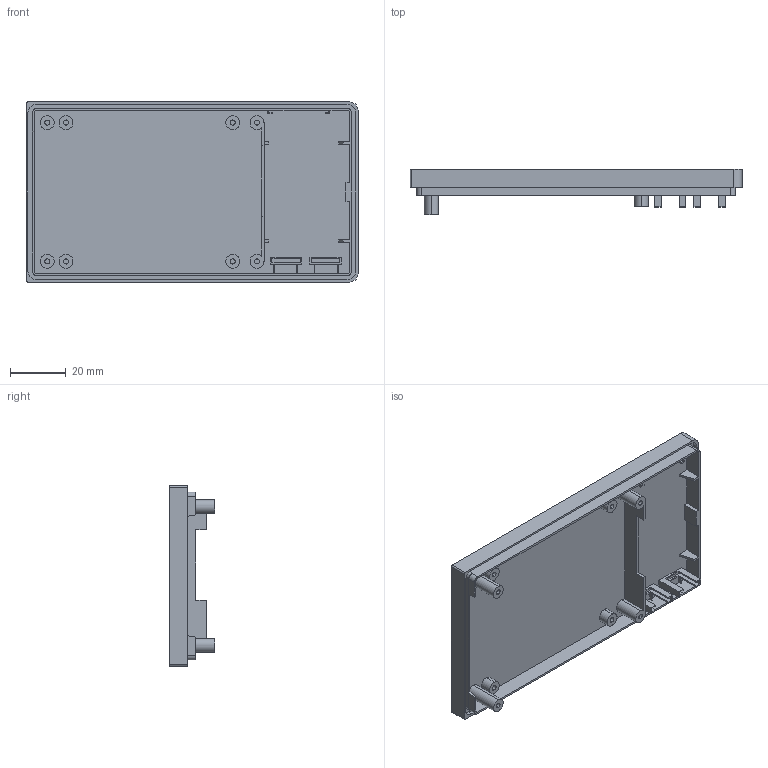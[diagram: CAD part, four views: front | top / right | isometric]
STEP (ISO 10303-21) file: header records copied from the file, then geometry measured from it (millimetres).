
FILE_DESCRIPTION (( 'STEP AP214' ), '1' );
FILE_NAME ('Tapa PP86 B.STEP', '2016-11-15T01:55:40', ( 'aaa' ), ( '' ), 'SwSTEP 2.0', 'SolidWorks 2013', '' );
FILE_SCHEMA (( 'AUTOMOTIVE_DESIGN' ));
Length unit declared in the file: millimetre
Products named in the file (1): Tapa PP86 B
Bounding box: 119.5 x 16.3 x 64.8 mm (x, y, z)
Volume: 22839.8 mm3; surface area: 25143 mm2
Topology: 1 solids, 1 shells, 190 faces, 508 edges, 338 vertices
Faces by surface type: plane 138, cylinder 52
Entity records: 5934 total; most frequent: CARTESIAN_POINT 1037, ORIENTED_EDGE 1016, DIRECTION 994, EDGE_CURVE 508, LINE 404, VECTOR 404, VERTEX_POINT 338, AXIS2_PLACEMENT_3D 295
